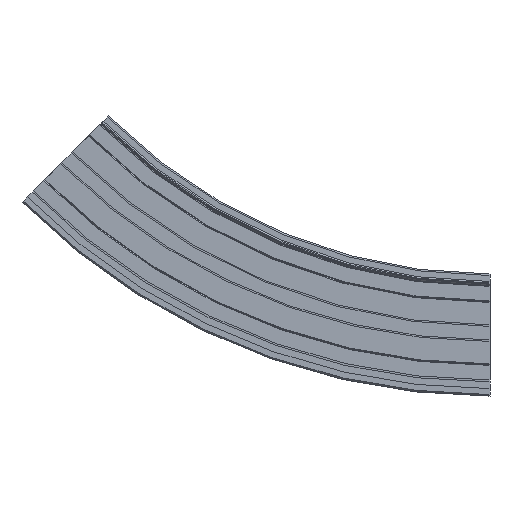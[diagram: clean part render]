
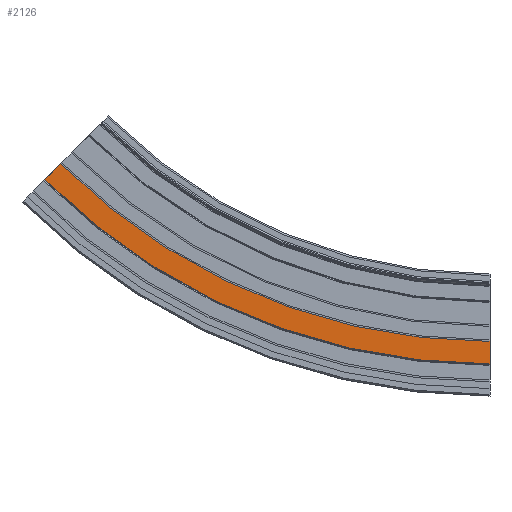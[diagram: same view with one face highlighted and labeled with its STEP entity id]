
A CAD part, left-side view. The second image highlights one B-rep face of the part: STEP entity #2126.
In plain terms, the highlighted planar face has unit normal (-1, 0, 0).
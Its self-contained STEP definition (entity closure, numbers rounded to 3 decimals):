
#214=CIRCLE('',#2314,405.5);
#215=CIRCLE('',#2316,420.5);
#325=FACE_OUTER_BOUND('',#443,.T.);
#443=EDGE_LOOP('',(#1725,#1726,#1727,#1728));
#593=LINE('',#8168,#771);
#594=LINE('',#8170,#772);
#771=VECTOR('',#2772,10.);
#772=VECTOR('',#2773,10.);
#983=VERTEX_POINT('',#8161);
#984=VERTEX_POINT('',#8163);
#985=VERTEX_POINT('',#8167);
#986=VERTEX_POINT('',#8169);
#1271=EDGE_CURVE('',#983,#984,#214,.T.);
#1272=EDGE_CURVE('',#985,#983,#593,.T.);
#1273=EDGE_CURVE('',#986,#984,#594,.T.);
#1274=EDGE_CURVE('',#985,#986,#215,.T.);
#1725=ORIENTED_EDGE('',*,*,#1272,.T.);
#1726=ORIENTED_EDGE('',*,*,#1271,.T.);
#1727=ORIENTED_EDGE('',*,*,#1273,.F.);
#1728=ORIENTED_EDGE('',*,*,#1274,.F.);
#2030=PLANE('',#2315);
#2126=ADVANCED_FACE('',(#325),#2030,.T.);
#2314=AXIS2_PLACEMENT_3D('',#8165,#2768,#2769);
#2315=AXIS2_PLACEMENT_3D('',#8166,#2770,#2771);
#2316=AXIS2_PLACEMENT_3D('',#8171,#2774,#2775);
#2768=DIRECTION('center_axis',(1.,0.,0.));
#2769=DIRECTION('ref_axis',(0.,0.,-1.));
#2770=DIRECTION('center_axis',(-1.,0.,0.));
#2771=DIRECTION('ref_axis',(0.,0.,1.));
#2772=DIRECTION('',(0.,0.,1.));
#2773=DIRECTION('',(0.,-0.707,0.707));
#2774=DIRECTION('center_axis',(1.,0.,0.));
#2775=DIRECTION('ref_axis',(0.,0.,-1.));
#8161=CARTESIAN_POINT('',(-112.,0.,-5.5));
#8163=CARTESIAN_POINT('',(-112.,286.732,113.268));
#8165=CARTESIAN_POINT('Origin',(-112.,0.,400.));
#8166=CARTESIAN_POINT('Origin',(-112.,0.,-20.5));
#8167=CARTESIAN_POINT('',(-112.,0.,-20.5));
#8168=CARTESIAN_POINT('',(-112.,0.,-20.5));
#8169=CARTESIAN_POINT('',(-112.,297.338,102.662));
#8170=CARTESIAN_POINT('',(-112.,297.338,102.662));
#8171=CARTESIAN_POINT('Origin',(-112.,0.,400.));
